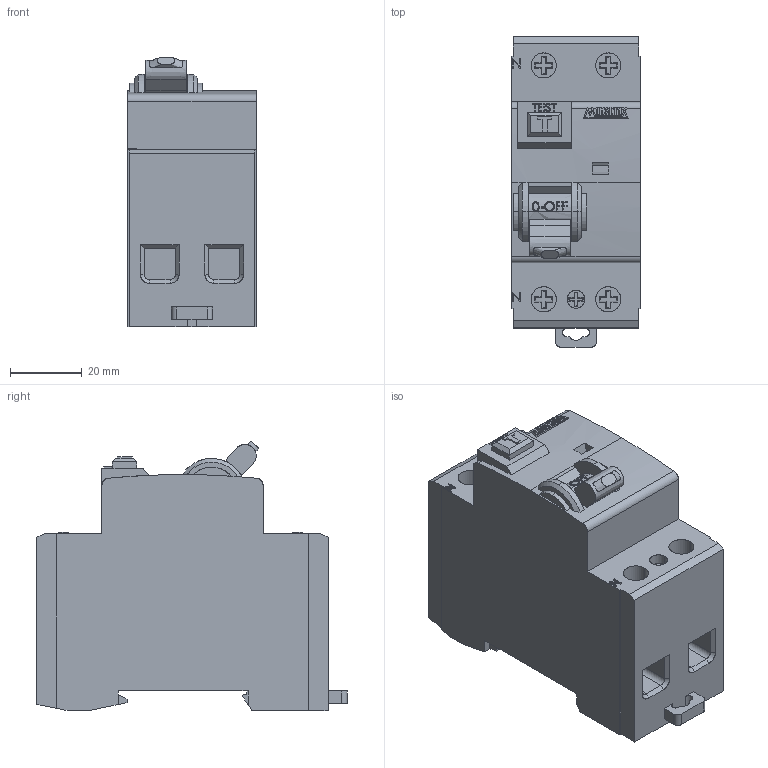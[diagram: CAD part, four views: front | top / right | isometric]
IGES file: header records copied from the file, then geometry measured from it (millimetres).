
Start section: SolidWorks IGES file using analytic representation for surfaces
Global section: file name: D:\X - Arquivos\PROEX\Empresas\P11 - METALTEX\01 - Produtos\IGES\4ª remessa\4ª etapa\DRA25-203.IGS; native system: SolidWorks 2012; preprocessor: SolidWorks 2012; author: Usuario; date: 180511.094424; units: millimetre
Bounding box: 36 x 86.6 x 75.36 mm (x, y, z)
Surface area: 24350.2 mm2 (no closed solid volume)
Topology: 0 solids, 0 shells, 487 faces, 3758 edges, 3758 vertices
Faces by surface type: bspline 425, revolution 62
